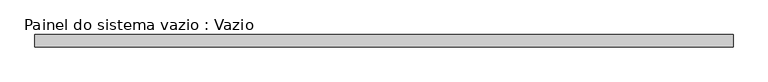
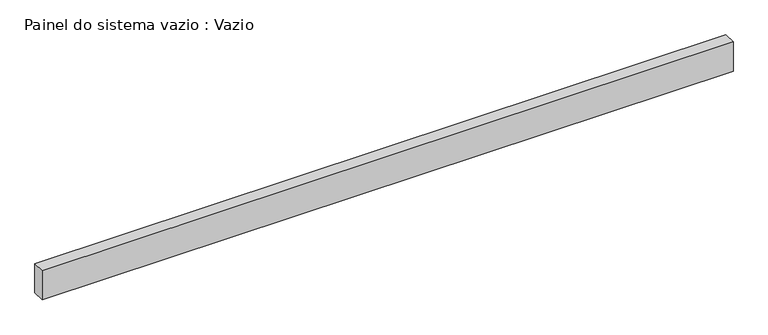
"""IFC4 building model written with IfcOpenShell, lengths in millimetres: plate geometry, Painel do sistema vazio : Vazio."""

from ifc_helpers import new_model, si_unit, origin, origin_with_axes, place, context, project, spatial, polyline, outline, extrude, source, transform, mapped, element, save


def painel_do_sistema_vazio_vazio_c075b244(model_context):
    return source(origin(), model_context, "Body", "SweptSolid", [
        extrude(outline(polyline([(2803.75, -50.0), (-2803.75, -50.0), (-2803.75, 50.0), (2803.75, 50.0), (2803.75, -50.0)])), origin_with_axes(), (0.0, 0.0, 1.0), 250.0),
    ])


if __name__ == "__main__":
    model = new_model("IFC4")
    model_context = context("Model", 3, world=origin())
    ifc_project = project(units=[si_unit("LENGTHUNIT", "METRE", prefix="MILLI")], contexts=[model_context])
    site = spatial("IfcSite", under=ifc_project)
    building = spatial("IfcBuilding", under=site)
    placement = place(None, origin())
    painel_do_sistema_vazio_vazio_shape = painel_do_sistema_vazio_vazio_c075b244(model_context)
    element("IfcPlate", 1, ObjectType="Painel do sistema vazio : Vazio", at=placement, inside=building, context=model_context, shape_type="MappedRepresentation", body=[
        mapped(painel_do_sistema_vazio_vazio_shape, transform((0.0, 0.0, 0.0), x_axis=(1.0, 0.0, 0.0), y_axis=(0.0, 1.0, 0.0), z_axis=(0.0, 0.0, 1.0))),
    ])
    save(model, "model.ifc")
